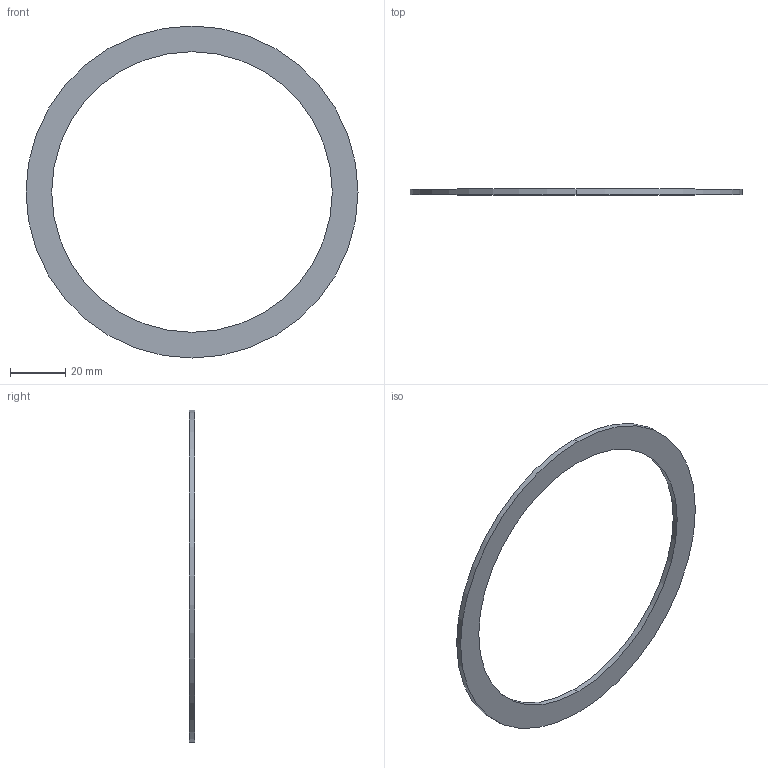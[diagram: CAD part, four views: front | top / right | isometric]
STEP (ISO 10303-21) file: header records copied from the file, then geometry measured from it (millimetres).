
FILE_DESCRIPTION (( 'STEP AP203' ), '1' );
FILE_NAME ('200850.stp', '2019-02-05T18:42:41', ( '' ), ( '' ), 'SwSTEP 2.0', 'SolidWorks 2012', '' );
FILE_SCHEMA (( 'CONFIG_CONTROL_DESIGN' ));
Length unit declared in the file: centimetre
Products named in the file (1): 200850
Bounding box: 120.47 x 2.03 x 120.47 mm (x, y, z)
Volume: 6614.3 mm3; surface area: 7929.3 mm2
Topology: 1 solids, 1 shells, 6 faces, 12 edges, 8 vertices
Faces by surface type: cylinder 4, plane 2
Entity records: 245 total; most frequent: DIRECTION 34, CARTESIAN_POINT 27, ORIENTED_EDGE 24, AXIS2_PLACEMENT_3D 15, EDGE_CURVE 12, VERTEX_POINT 8, EDGE_LOOP 8, PERSON_AND_ORGANIZATION 8
